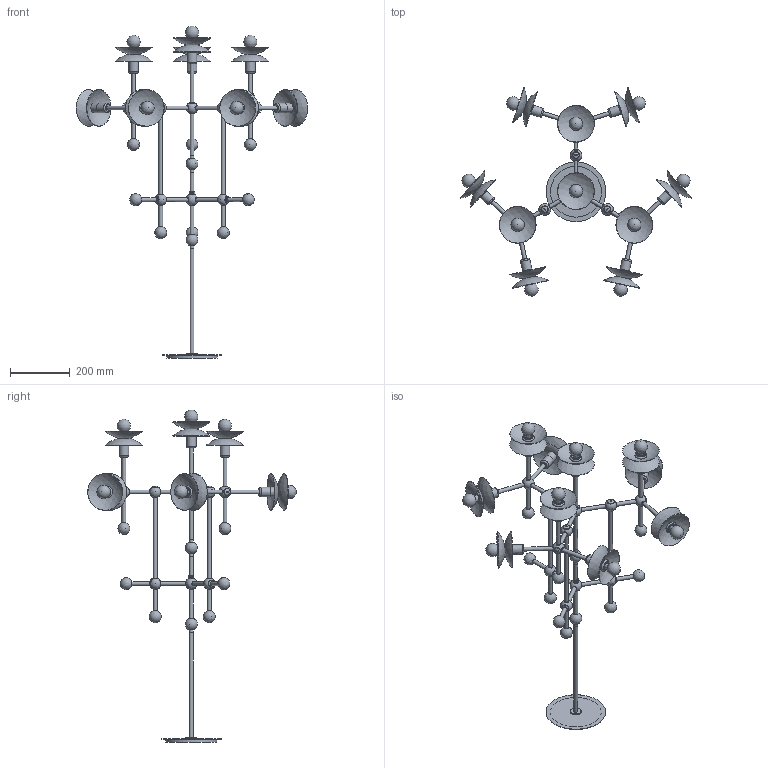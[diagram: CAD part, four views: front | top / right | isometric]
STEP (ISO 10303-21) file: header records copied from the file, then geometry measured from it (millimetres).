
FILE_DESCRIPTION(/* description */ (''),/* implementation_level */ '2;1');
FILE_NAME(/* name */ '251201_B_B758 Babilon Chandelier 1.stp',/* time_stamp */ '2025-12-01T09:41:41+01:00',/* author */ ('Dominik'),/* organization */ (''),/* preprocessor_version */ 'ST-DEVELOPER v20.1',/* originating_system */ 'Autodesk Inventor 2026',/* authorisation */ '');
FILE_SCHEMA (('AUTOMOTIVE_DESIGN { 1 0 10303 214 3 1 1 }'));
Length unit declared in the file: millimetre
Products named in the file (1): B758 jako część
Bounding box: 773.26 x 697.02 x 1109.88 mm (x, y, z)
Volume: 3141365.1 mm3; surface area: 1183929.9 mm2
Topology: 133 solids, 133 shells, 894 faces, 1499 edges, 998 vertices
Faces by surface type: plane 362, cylinder 273, cone 87, sphere 82, torus 70, bspline 20
Full cylindrical faces by diameter (mm): 10 x3, 11.6 x30, 11.917 x4, 12 x19, 13 x66, 13.5 x41, 17 x10, 18 x1, 18.5 x1, 20.6 x10, 22 x10, 23.1 x10, 23.5 x10, 28 x10, 29 x20, 32 x10, 34.5 x1, 36 x1, 170 x1, 200 x1
Entity records: 23691 total; most frequent: CARTESIAN_POINT 5030, DIRECTION 4148, ORIENTED_EDGE 2902, AXIS2_PLACEMENT_3D 1874, EDGE_CURVE 1451, EDGE_LOOP 1091, STYLED_ITEM 1027, CIRCLE 999
